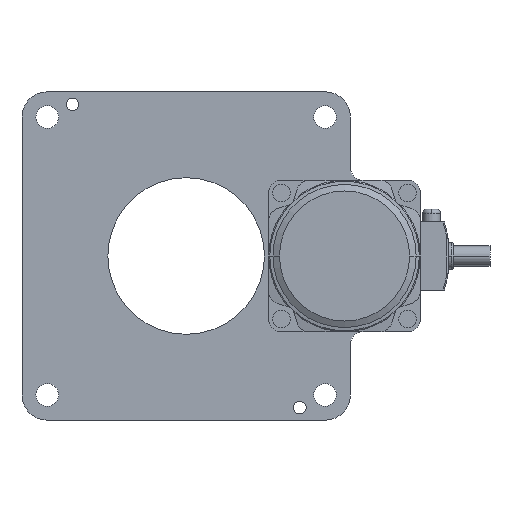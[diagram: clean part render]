
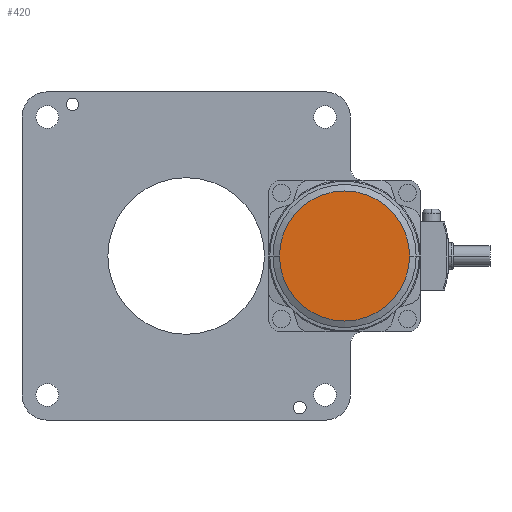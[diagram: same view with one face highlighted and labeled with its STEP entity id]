
A CAD part, left-side view. The second image highlights one B-rep face of the part: STEP entity #420.
In plain terms, the highlighted planar face has unit normal (-1, 0, 0).
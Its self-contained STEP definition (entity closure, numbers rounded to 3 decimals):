
#420 = ADVANCED_FACE( '', ( #1157 ), #1158, .F. );
#1157 = FACE_OUTER_BOUND( '', #2056, .T. );
#1158 = PLANE( '', #2057 );
#2056 = EDGE_LOOP( '', ( #4853, #4854 ) );
#2057 = AXIS2_PLACEMENT_3D( '', #4855, #4856, #4857 );
#4853 = ORIENTED_EDGE( '', *, *, #6088, .T. );
#4854 = ORIENTED_EDGE( '', *, *, #6012, .T. );
#4855 = CARTESIAN_POINT( '', ( -101.5, 0., 0. ) );
#4856 = DIRECTION( '', ( 1., 0., 0. ) );
#4857 = DIRECTION( '', ( 0., 0., -1. ) );
#6012 = EDGE_CURVE( '', #7256, #7254, #7257, .T. );
#6088 = EDGE_CURVE( '', #7254, #7256, #7392, .T. );
#7254 = VERTEX_POINT( '', #9223 );
#7256 = VERTEX_POINT( '', #9226 );
#7257 = CIRCLE( '', #9227, 25.75 );
#7392 = CIRCLE( '', #9580, 25.75 );
#9223 = CARTESIAN_POINT( '', ( -101.5, -36.95, 0. ) );
#9226 = CARTESIAN_POINT( '', ( -101.5, -88.45, 0. ) );
#9227 = AXIS2_PLACEMENT_3D( '', #12213, #12214, #12215 );
#9580 = AXIS2_PLACEMENT_3D( '', #12324, #12325, #12326 );
#12213 = CARTESIAN_POINT( '', ( -101.5, -62.7, 0. ) );
#12214 = DIRECTION( '', ( -1., 0., 0. ) );
#12215 = DIRECTION( '', ( 0., 1., 0. ) );
#12324 = CARTESIAN_POINT( '', ( -101.5, -62.7, 0. ) );
#12325 = DIRECTION( '', ( -1., 0., 0. ) );
#12326 = DIRECTION( '', ( 0., 1., 0. ) );
